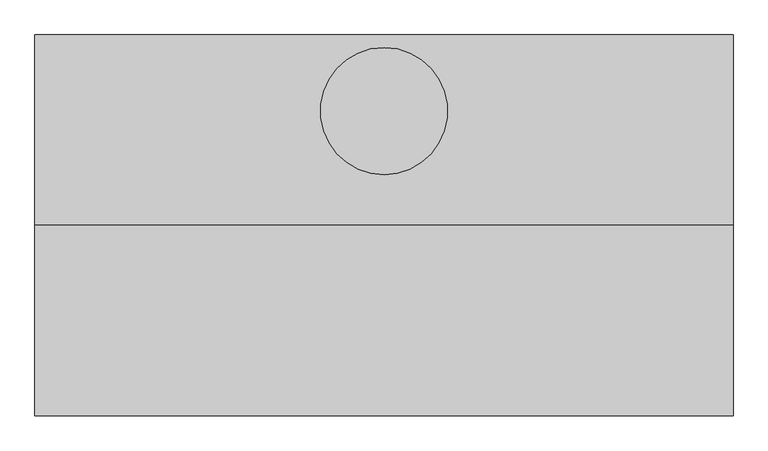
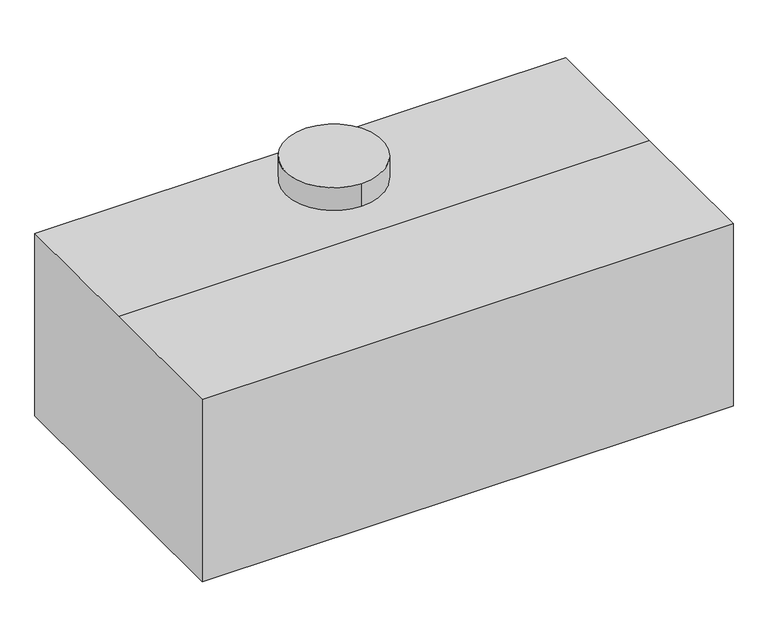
"""IFC4 building model written with IfcOpenShell, lengths in millimetres: air terminal geometry, BL_ЗонтВытяжной_Пристенный_ЗВП : BL_ЗонтВытяжной_Пристенный_ЗВП."""

from ifc_helpers import new_model, si_unit, point, frame, frame_2d, origin, place, context, project, spatial, circle_curve, trimmed, segment, composite_curve, outline, extrude, faceted_brep, source, transform, mapped, element, save


def air_terminal_c572d766(model_context):
    return source(origin(), model_context, "Body", "SolidModel", [
        faceted_brep([(550.0, -299.9999996, 400.0), (550.0, -600.0, 400.0), (550.0, -600.0, 0.0), (550.0, -200.0, 0.0), (550.0, 0.0, 0.0), (550.0, 0.0, 400.0), (-550.0, -299.9999996, 400.0), (-550.0, 0.0, 400.0), (-550.0, 0.0, 0.0), (-550.0, -200.0, 0.0), (-550.0, -600.0, 0.0), (-550.0, -600.0, 400.0), (-530.0, -200.0, 0.0), (-530.0, -580.0, 0.0), (530.0, -580.0, 0.0), (530.0, -200.0, 0.0), (530.0, -100.0, 0.0), (-530.0, -100.0, 0.0), (530.0, -280.0, 380.0), (530.0, -580.0, 380.0), (-530.0, -280.0, 380.0), (-530.0, -580.0, 380.0)], [[[0, 1, 2, 3, 4, 5]], [[6, 7, 8, 9, 10, 11]], [[1, 0, 6, 11]], [[2, 1, 11, 10]], [[3, 2, 10, 9, 12, 13, 14, 15]], [[4, 3, 15, 16, 17, 12, 9, 8]], [[5, 4, 8, 7]], [[0, 5, 7, 6]], [[18, 16, 15, 14, 19]], [[20, 21, 13, 12, 17]], [[16, 18, 20, 17]], [[18, 19, 21, 20]], [[19, 14, 13, 21]]]),
        extrude(outline(composite_curve([segment(trimmed(circle_curve(frame_2d((0.0, -120.0)), 100.0), [point((0.0, -220.0))], [point((0.0, -20.0))], False, "CARTESIAN"), True, "CONTINUOUS"), segment(trimmed(circle_curve(frame_2d((0.0, -120.0)), 100.0), [point((0.0, -20.0))], [point((0.0, -220.0))], False, "CARTESIAN"), True, "CONTINUOUS")], self_intersect=False)), frame((0.0, 0.0, 400.0), z_axis=(0.0, 0.0, 1.0), x_axis=(1.0, 0.0, 0.0)), (0.0, 0.0, 1.0), 50.0),
    ])


if __name__ == "__main__":
    model = new_model("IFC4")
    model_context = context("Model", 3, world=origin())
    ifc_project = project(units=[si_unit("LENGTHUNIT", "METRE", prefix="MILLI")], contexts=[model_context])
    site = spatial("IfcSite", under=ifc_project)
    building = spatial("IfcBuilding", under=site)
    placement = place(None, origin())
    air_terminal_shape = air_terminal_c572d766(model_context)
    element("IfcAirTerminal", 1, ObjectType="BL_ЗонтВытяжной_Пристенный_ЗВП : BL_ЗонтВытяжной_Пристенный_ЗВП", at=placement, inside=building, context=model_context, shape_type="MappedRepresentation", body=[
        mapped(air_terminal_shape, transform((0.0, 0.0, 0.0), x_axis=(1.0, 0.0, 0.0), y_axis=(0.0, 1.0, 0.0), z_axis=(0.0, 0.0, 1.0))),
    ])
    save(model, "model.ifc")
